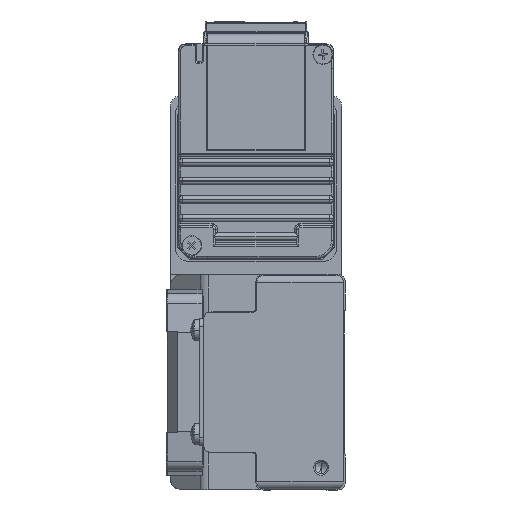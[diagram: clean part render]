
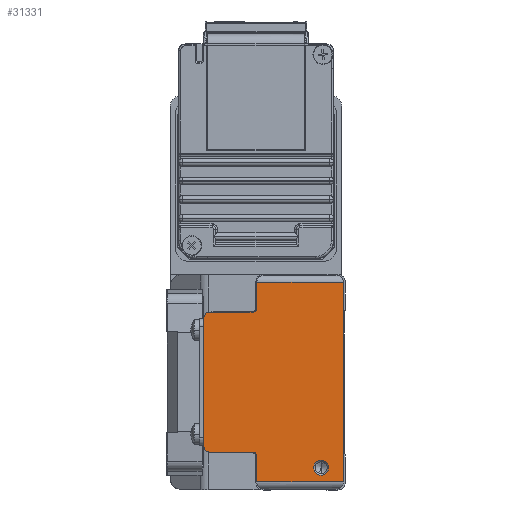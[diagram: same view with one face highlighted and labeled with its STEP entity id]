
A CAD part, left-side view. The second image highlights one B-rep face of the part: STEP entity #31331.
In plain terms, the highlighted planar face has unit normal (-1, 0, 0) as drawn and (0, 0, 1) by its records, which use the part's own axes.
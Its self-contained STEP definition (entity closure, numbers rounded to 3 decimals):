
#592 = ORIENTED_EDGE ( 'NONE', *, *, #15926, .T. ) ;
#639 = CARTESIAN_POINT ( 'NONE',  ( -26.8, 24., 520. ) ) ;
#1171 = VECTOR ( 'NONE', #31942, 1000. ) ;
#1362 = DIRECTION ( 'NONE',  ( 0., -1., 0. ) ) ;
#1659 = VERTEX_POINT ( 'NONE', #38752 ) ;
#1665 = CARTESIAN_POINT ( 'NONE',  ( 26.8, 24., 520. ) ) ;
#1799 = EDGE_CURVE ( 'NONE', #23431, #34385, #10200, .T. ) ;
#2607 = DIRECTION ( 'NONE',  ( 1., 0., 0. ) ) ;
#3487 = CARTESIAN_POINT ( 'NONE',  ( -21., 6.5, 520. ) ) ;
#3763 = CARTESIAN_POINT ( 'NONE',  ( -26.8, 23.8, 520. ) ) ;
#3820 = VECTOR ( 'NONE', #19875, 1000. ) ;
#4109 = ORIENTED_EDGE ( 'NONE', *, *, #38259, .T. ) ;
#5182 = CARTESIAN_POINT ( 'NONE',  ( 19.8, 24.8, 520. ) ) ;
#5630 = ORIENTED_EDGE ( 'NONE', *, *, #43365, .F. ) ;
#5642 = VERTEX_POINT ( 'NONE', #17191 ) ;
#6826 = CARTESIAN_POINT ( 'NONE',  ( 17.3, 38., 520. ) ) ;
#8288 = CIRCLE ( 'NONE', #16369, 1.5 ) ;
#8604 = CARTESIAN_POINT ( 'NONE',  ( 26.8, 0.5, 520. ) ) ;
#8757 = EDGE_CURVE ( 'NONE', #16465, #40986, #17795, .T. ) ;
#8918 = EDGE_CURVE ( 'NONE', #34694, #37544, #8288, .T. ) ;
#9090 = CARTESIAN_POINT ( 'NONE',  ( -19.8, 24.8, 520. ) ) ;
#9185 = CARTESIAN_POINT ( 'NONE',  ( 17.3, 36.5, 520. ) ) ;
#9610 = EDGE_LOOP ( 'NONE', ( #4109, #35048, #30790, #22123, #592, #15074, #40397, #5630, #18932, #16281, #35102, #16891 ) ) ;
#9678 = VECTOR ( 'NONE', #43155, 1000. ) ;
#10045 = EDGE_CURVE ( 'NONE', #5642, #40538, #24867, .T. ) ;
#10200 = CIRCLE ( 'NONE', #18265, 1.5 ) ;
#10766 = CARTESIAN_POINT ( 'NONE',  ( -18.8, 24.8, 520. ) ) ;
#10884 = CARTESIAN_POINT ( 'NONE',  ( -26.8, 0.5, 520. ) ) ;
#11295 = CARTESIAN_POINT ( 'NONE',  ( -25., 6.5, 520. ) ) ;
#11794 = VECTOR ( 'NONE', #1362, 1000. ) ;
#12189 = CIRCLE ( 'NONE', #23939, 1. ) ;
#12367 = CARTESIAN_POINT ( 'NONE',  ( 18.8, 24.8, 520. ) ) ;
#14205 = DIRECTION ( 'NONE',  ( 0., -1., 0. ) ) ;
#14871 = CARTESIAN_POINT ( 'NONE',  ( 18.8, 24.8, 520. ) ) ;
#15074 = ORIENTED_EDGE ( 'NONE', *, *, #39606, .F. ) ;
#15160 = LINE ( 'NONE', #16070, #11794 ) ;
#15558 = DIRECTION ( 'NONE',  ( 0., 0., -1. ) ) ;
#15831 = ORIENTED_EDGE ( 'NONE', *, *, #36925, .T. ) ;
#15926 = EDGE_CURVE ( 'NONE', #39488, #29770, #40937, .T. ) ;
#16070 = CARTESIAN_POINT ( 'NONE',  ( -18.8, 36.5, 520. ) ) ;
#16090 = EDGE_LOOP ( 'NONE', ( #15831, #41997 ) ) ;
#16281 = ORIENTED_EDGE ( 'NONE', *, *, #1799, .T. ) ;
#16369 = AXIS2_PLACEMENT_3D ( 'NONE', #43796, #25559, #26483 ) ;
#16465 = VERTEX_POINT ( 'NONE', #3487 ) ;
#16532 = DIRECTION ( 'NONE',  ( 1., 0., 0. ) ) ;
#16654 = PLANE ( 'NONE',  #39803 ) ;
#16891 = ORIENTED_EDGE ( 'NONE', *, *, #8918, .T. ) ;
#17191 = CARTESIAN_POINT ( 'NONE',  ( -19.8, 23.8, 520. ) ) ;
#17564 = VERTEX_POINT ( 'NONE', #42639 ) ;
#17795 = CIRCLE ( 'NONE', #24405, 2. ) ;
#18265 = AXIS2_PLACEMENT_3D ( 'NONE', #9185, #26197, #16532 ) ;
#18444 = CARTESIAN_POINT ( 'NONE',  ( -17.3, 38., 520. ) ) ;
#18698 = EDGE_CURVE ( 'NONE', #40538, #39488, #32113, .T. ) ;
#18932 = ORIENTED_EDGE ( 'NONE', *, *, #22148, .T. ) ;
#19875 = DIRECTION ( 'NONE',  ( 1., 0., 0. ) ) ;
#20790 = DIRECTION ( 'NONE',  ( -1., 0., 0. ) ) ;
#21640 = VECTOR ( 'NONE', #38781, 1000. ) ;
#22122 = LINE ( 'NONE', #1665, #9678 ) ;
#22123 = ORIENTED_EDGE ( 'NONE', *, *, #18698, .T. ) ;
#22148 = EDGE_CURVE ( 'NONE', #29144, #23431, #35001, .T. ) ;
#22261 = CARTESIAN_POINT ( 'NONE',  ( 26.8, 23.8, 520. ) ) ;
#23294 = DIRECTION ( 'NONE',  ( 0., 0., 1. ) ) ;
#23389 = CARTESIAN_POINT ( 'NONE',  ( -18.8, 36.5, 520. ) ) ;
#23431 = VERTEX_POINT ( 'NONE', #25651 ) ;
#23765 = CARTESIAN_POINT ( 'NONE',  ( -23., 6.5, 520. ) ) ;
#23939 = AXIS2_PLACEMENT_3D ( 'NONE', #5182, #33198, #29092 ) ;
#24113 = CIRCLE ( 'NONE', #34311, 2. ) ;
#24405 = AXIS2_PLACEMENT_3D ( 'NONE', #23765, #27666, #27451 ) ;
#24867 = LINE ( 'NONE', #25328, #21640 ) ;
#25328 = CARTESIAN_POINT ( 'NONE',  ( -19.8, 23.8, 520. ) ) ;
#25559 = DIRECTION ( 'NONE',  ( 0., 0., 1. ) ) ;
#25651 = CARTESIAN_POINT ( 'NONE',  ( 18.8, 36.5, 520. ) ) ;
#26197 = DIRECTION ( 'NONE',  ( 0., 0., 1. ) ) ;
#26428 = VECTOR ( 'NONE', #14205, 1000. ) ;
#26483 = DIRECTION ( 'NONE',  ( 1., 0., 0. ) ) ;
#26970 = EDGE_CURVE ( 'NONE', #1659, #17564, #42827, .T. ) ;
#27236 = DIRECTION ( 'NONE',  ( 1., 0., 0. ) ) ;
#27451 = DIRECTION ( 'NONE',  ( -1., 0., 0. ) ) ;
#27666 = DIRECTION ( 'NONE',  ( 0., 0., -1. ) ) ;
#29092 = DIRECTION ( 'NONE',  ( 1., 0., 0. ) ) ;
#29108 = DIRECTION ( 'NONE',  ( 0., 1., 0. ) ) ;
#29144 = VERTEX_POINT ( 'NONE', #12367 ) ;
#29749 = CARTESIAN_POINT ( 'NONE',  ( 17.3, 38., 520. ) ) ;
#29770 = VERTEX_POINT ( 'NONE', #8604 ) ;
#30462 = EDGE_CURVE ( 'NONE', #34385, #34694, #44595, .T. ) ;
#30790 = ORIENTED_EDGE ( 'NONE', *, *, #10045, .T. ) ;
#31331 = ADVANCED_FACE ( 'NONE', ( #34945, #32208 ), #16654, .T. ) ;
#31942 = DIRECTION ( 'NONE',  ( -1., 0., 0. ) ) ;
#32101 = DIRECTION ( 'NONE',  ( -1., 0., 0. ) ) ;
#32113 = LINE ( 'NONE', #639, #26428 ) ;
#32208 = FACE_OUTER_BOUND ( 'NONE', #9610, .T. ) ;
#32419 = CIRCLE ( 'NONE', #36720, 1. ) ;
#33198 = DIRECTION ( 'NONE',  ( 0., 0., 1. ) ) ;
#34311 = AXIS2_PLACEMENT_3D ( 'NONE', #39587, #15558, #32101 ) ;
#34385 = VERTEX_POINT ( 'NONE', #29749 ) ;
#34694 = VERTEX_POINT ( 'NONE', #18444 ) ;
#34945 = FACE_BOUND ( 'NONE', #16090, .T. ) ;
#35001 = LINE ( 'NONE', #14871, #38913 ) ;
#35048 = ORIENTED_EDGE ( 'NONE', *, *, #38659, .F. ) ;
#35102 = ORIENTED_EDGE ( 'NONE', *, *, #30462, .T. ) ;
#36720 = AXIS2_PLACEMENT_3D ( 'NONE', #9090, #23294, #2607 ) ;
#36925 = EDGE_CURVE ( 'NONE', #40986, #16465, #24113, .T. ) ;
#37544 = VERTEX_POINT ( 'NONE', #23389 ) ;
#38259 = EDGE_CURVE ( 'NONE', #37544, #42331, #15160, .T. ) ;
#38390 = CARTESIAN_POINT ( 'NONE',  ( -26.8, 21.8, 520. ) ) ;
#38659 = EDGE_CURVE ( 'NONE', #5642, #42331, #32419, .T. ) ;
#38752 = CARTESIAN_POINT ( 'NONE',  ( 26.8, 23.8, 520. ) ) ;
#38781 = DIRECTION ( 'NONE',  ( -1., 0., 0. ) ) ;
#38913 = VECTOR ( 'NONE', #29108, 1000. ) ;
#39488 = VERTEX_POINT ( 'NONE', #10884 ) ;
#39587 = CARTESIAN_POINT ( 'NONE',  ( -23., 6.5, 520. ) ) ;
#39606 = EDGE_CURVE ( 'NONE', #1659, #29770, #22122, .T. ) ;
#39803 = AXIS2_PLACEMENT_3D ( 'NONE', #38390, #45009, #27236 ) ;
#40397 = ORIENTED_EDGE ( 'NONE', *, *, #26970, .T. ) ;
#40538 = VERTEX_POINT ( 'NONE', #3763 ) ;
#40937 = LINE ( 'NONE', #43907, #3820 ) ;
#40986 = VERTEX_POINT ( 'NONE', #11295 ) ;
#41997 = ORIENTED_EDGE ( 'NONE', *, *, #8757, .T. ) ;
#42331 = VERTEX_POINT ( 'NONE', #10766 ) ;
#42639 = CARTESIAN_POINT ( 'NONE',  ( 19.8, 23.8, 520. ) ) ;
#42827 = LINE ( 'NONE', #22261, #1171 ) ;
#43155 = DIRECTION ( 'NONE',  ( 0., -1., 0. ) ) ;
#43365 = EDGE_CURVE ( 'NONE', #29144, #17564, #12189, .T. ) ;
#43796 = CARTESIAN_POINT ( 'NONE',  ( -17.3, 36.5, 520. ) ) ;
#43907 = CARTESIAN_POINT ( 'NONE',  ( -26.8, 0.5, 520. ) ) ;
#44188 = VECTOR ( 'NONE', #20790, 1000. ) ;
#44595 = LINE ( 'NONE', #6826, #44188 ) ;
#45009 = DIRECTION ( 'NONE',  ( 0., 0., 1. ) ) ;
